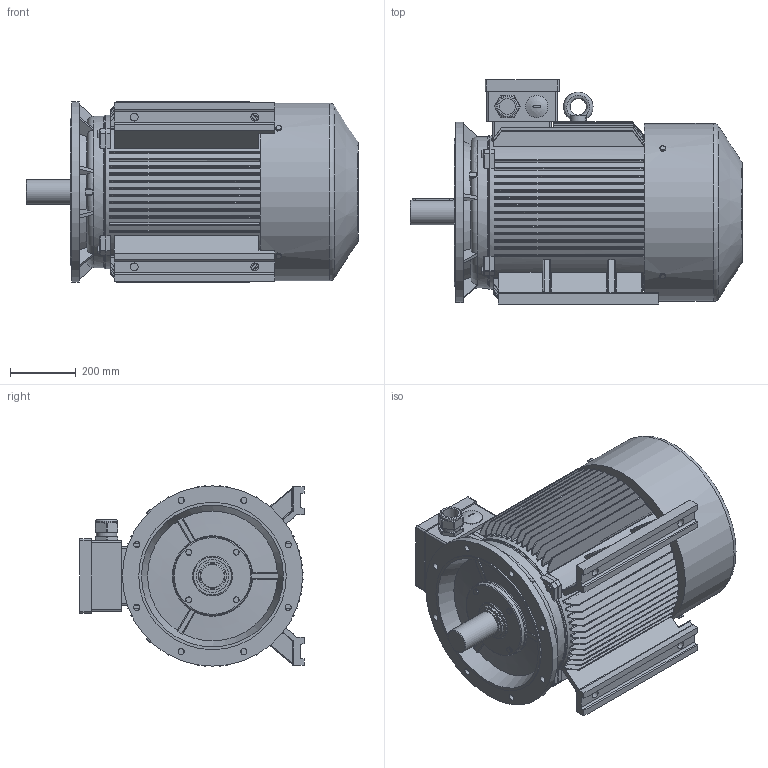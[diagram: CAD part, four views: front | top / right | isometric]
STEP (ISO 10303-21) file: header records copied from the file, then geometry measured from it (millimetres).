
FILE_DESCRIPTION(/* description */ ('01-IP55-Cast Iron-IE4-280S B35-4_8'),/* implementation_level */ '2;1');
FILE_NAME(/* name */ 'D:\02 - Onedrive\OneDrive\01 - Werkbestanden\121 - OMEC\1408 - MOTOREN CAD BIBLIOTHEEK\1408 - Gereed\OMT1-IE4\01-IP55-Cast Iron-IE4-280S B35-4_8.stp',/* time_stamp */ '2017-10-20T13:47:19+02:00',/* author */ ('freek'),/* organization */ (''),/* preprocessor_version */ 'ST-DEVELOPER v16.1',/* originating_system */ 'Autodesk Inventor 2016',/* authorisation */ '');
FILE_SCHEMA (('AUTOMOTIVE_DESIGN { 1 0 10303 214 3 1 1 }'));
Products named in the file (1): 1408-761
Bounding box: 1013.1 x 685 x 552.15 mm (x, y, z)
Volume: 172822213.6 mm3; surface area: 4844955.5 mm2
Topology: 3 solids, 16 shells, 3435 faces, 8394 edges, 5464 vertices
Faces by surface type: plane 2760, cylinder 400, cone 211, bspline 27, torus 23, sphere 14
Full cylindrical faces by diameter (mm): 9.188 x4, 10 x12, 11.053 x4, 11.5 x1, 12 x8, 15.4 x8, 17.2 x4, 19 x8, 24 x4, 48 x1, 63 x1, 66 x1, 68 x1, 75 x1, 85 x1, 94.8 x1, 99.8 x1, 100 x1, 116 x1, 240 x2, 296 x1, 450 x1, 462 x1, 468 x2, 543 x1, 550 x1
Entity records: 107468 total; most frequent: CARTESIAN_POINT 24774, ORIENTED_EDGE 16534, DIRECTION 15188, EDGE_CURVE 8252, LINE 6576, VECTOR 6576, VERTEX_POINT 5434, AXIS2_PLACEMENT_3D 4306
